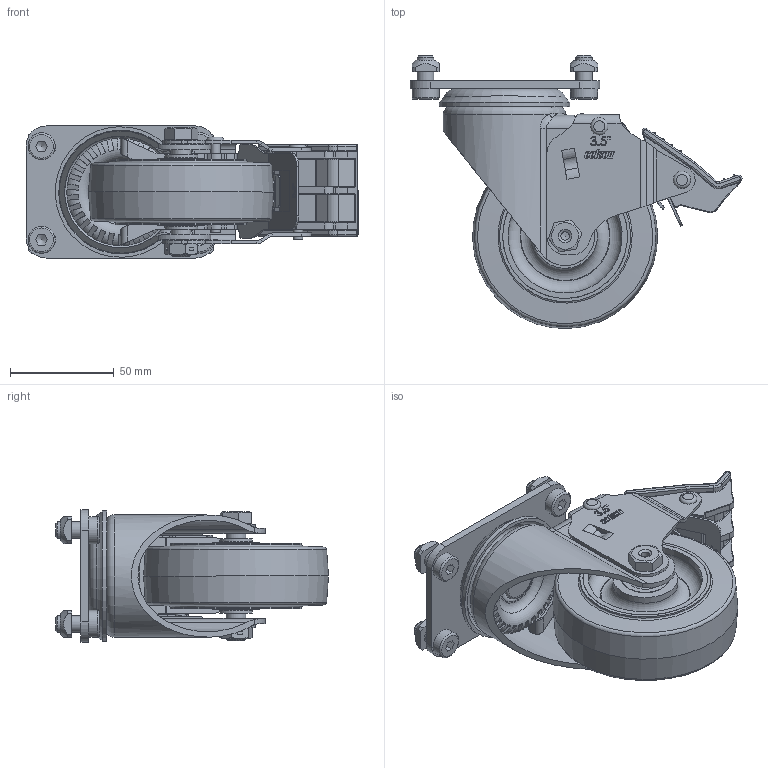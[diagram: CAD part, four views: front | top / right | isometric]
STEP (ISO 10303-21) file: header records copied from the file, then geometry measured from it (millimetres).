
FILE_DESCRIPTION((''),'2;1');
FILE_NAME('C:\Documents and Settings\Administrator\My Documents\Andys Backup Data\ANDY''S INVENTOR\INVENTOR LIBRARIES\MINITEC INVENTOR LIBRARIES\FEET WHEELS FLOOR FASTENING SUPPORTS\21.9401 CASTER 3.5 PLT BRK.stp','2010-11-05T07:54:30',('Administrator'),(''),'Autodesk Inventor 2009','Autodesk Inventor 2009','');
FILE_SCHEMA(('AUTOMOTIVE_DESIGN { 1 0 10303 214 1 1 1 1 }'));
Length unit declared in the file: inch
Products named in the file (19): 21.9401 CASTER 3.5 PLT BRK; 21.9401 WHEEL FORK; 21.9401 UPPER RIVET; 21.9401 mtg plate std; 21.9401 LOWER RACEWAY; 21.9403 wheel assy; 21.9403 ball bearing; 21.9401 wheel core; 21.9401 wheel tread; 21.9401 WHEEL BOLT; 21.9401 WHEEL NUT; 21.9401 BRK_ASSY; 21.9401 BRAKE; 21.9401 TOTAL LK FORK; 21.9401 CROSS BOLT; 21.9401 BRK FORK; 21.9401 UPPER RACEWAY; 21.1200 M8 x 16; 21.1351 M8 SQUARE NUT
Assembly tree (25 placements, depth 3):
  21.9401 CASTER 3.5 PLT BRK
    21.9401 WHEEL FORK
    21.9401 UPPER RIVET
    21.9401 mtg plate std
    21.9401 LOWER RACEWAY
    21.9403 wheel assy
      21.9403 ball bearing
      21.9401 wheel core
      21.9401 wheel tread
    21.9401 WHEEL BOLT
    21.9401 WHEEL NUT
    21.9401 BRK_ASSY
      21.9401 BRAKE
      21.9401 TOTAL LK FORK
      21.9401 CROSS BOLT  x2
      21.9401 BRK FORK
    21.9401 UPPER RACEWAY
    21.1200 M8 x 16  x4
    21.1351 M8 SQUARE NUT  x4
Bounding box: 159.69 x 131.28 x 63.5 mm (x, y, z)
Volume: 266067.8 mm3; surface area: 131344.8 mm2
Topology: 23 solids, 23 shells, 1353 faces, 3417 edges, 2132 vertices
Faces by surface type: plane 652, cylinder 373, bspline 171, torus 87, cone 52, sphere 18
Full cylindrical faces by diameter (mm): 2.286 x1, 3.454 x2, 4.064 x1, 4.674 x2, 5.004 x4, 5.258 x1, 8 x8, 8.871 x1, 9.525 x1, 12.192 x1, 13 x4, 15.545 x1, 15.875 x3, 19.279 x1, 22.606 x2, 22.86 x1, 22.911 x1, 24.384 x1, 31.039 x2, 32.563 x1, 51.562 x1, 54.915 x2, 59.995 x1, 60.046 x1, 62.8 x1, 63.094 x2
Entity records: 51521 total; most frequent: CARTESIAN_POINT 21914, ORIENTED_EDGE 6112, DIRECTION 5724, EDGE_CURVE 3056, AXIS2_PLACEMENT_3D 2019, VERTEX_POINT 1972, VECTOR 1686, LINE 1686
